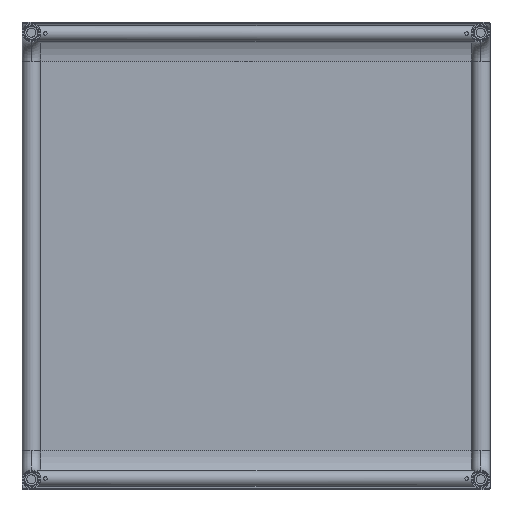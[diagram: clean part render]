
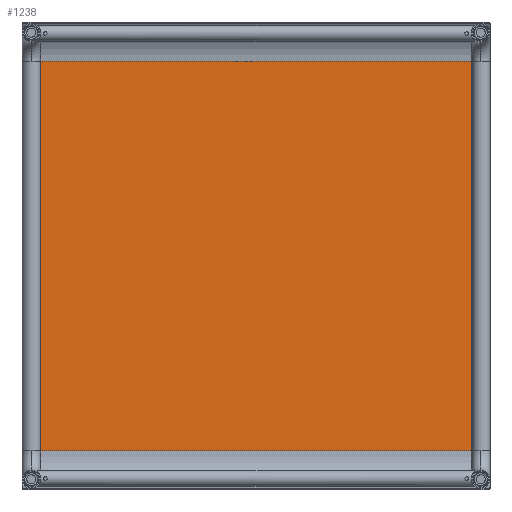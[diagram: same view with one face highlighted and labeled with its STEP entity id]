
A CAD part, front view. The second image highlights one B-rep face of the part: STEP entity #1238.
In plain terms, the highlighted planar face has unit normal (0, -1, 0).
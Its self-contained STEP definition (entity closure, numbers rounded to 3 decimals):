
#354 = VERTEX_POINT ( 'NONE', #2723 ) ;
#679 = EDGE_LOOP ( 'NONE', ( #4935, #4127, #1832, #2756 ) ) ;
#818 = DIRECTION ( 'NONE',  ( 0., 0., 1. ) ) ;
#900 = CARTESIAN_POINT ( 'NONE',  ( 400., -2.5, -332.5 ) ) ;
#939 = VERTEX_POINT ( 'NONE', #3155 ) ;
#1238 = ADVANCED_FACE ( 'NONE', ( #1807 ), #3176, .T. ) ;
#1807 = FACE_OUTER_BOUND ( 'NONE', #679, .T. ) ;
#1832 = ORIENTED_EDGE ( 'NONE', *, *, #4005, .F. ) ;
#1859 = EDGE_CURVE ( 'NONE', #939, #2720, #3558, .T. ) ;
#1962 = DIRECTION ( 'NONE',  ( 1., 0., 0. ) ) ;
#1963 = AXIS2_PLACEMENT_3D ( 'NONE', #7320, #7297, #4336 ) ;
#2016 = CARTESIAN_POINT ( 'NONE',  ( 400., -2.5, 400. ) ) ;
#2569 = CARTESIAN_POINT ( 'NONE',  ( -400., -2.5, 400. ) ) ;
#2720 = VERTEX_POINT ( 'NONE', #900 ) ;
#2723 = CARTESIAN_POINT ( 'NONE',  ( -400., -2.5, 332.5 ) ) ;
#2756 = ORIENTED_EDGE ( 'NONE', *, *, #3781, .F. ) ;
#3148 = DIRECTION ( 'NONE',  ( -1., 0., 0. ) ) ;
#3149 = DIRECTION ( 'NONE',  ( 0., 0., -1. ) ) ;
#3155 = CARTESIAN_POINT ( 'NONE',  ( 400., -2.5, 332.5 ) ) ;
#3176 = PLANE ( 'NONE',  #1963 ) ;
#3344 = CARTESIAN_POINT ( 'NONE',  ( -400., -2.5, -332.5 ) ) ;
#3558 = LINE ( 'NONE', #2016, #6636 ) ;
#3781 = EDGE_CURVE ( 'NONE', #4886, #354, #6440, .T. ) ;
#4005 = EDGE_CURVE ( 'NONE', #354, #939, #7203, .T. ) ;
#4057 = EDGE_CURVE ( 'NONE', #2720, #4886, #6645, .T. ) ;
#4127 = ORIENTED_EDGE ( 'NONE', *, *, #1859, .F. ) ;
#4202 = VECTOR ( 'NONE', #818, 1000. ) ;
#4275 = CARTESIAN_POINT ( 'NONE',  ( -400., -2.5, 332.5 ) ) ;
#4336 = DIRECTION ( 'NONE',  ( 0., 0., -1. ) ) ;
#4886 = VERTEX_POINT ( 'NONE', #3344 ) ;
#4935 = ORIENTED_EDGE ( 'NONE', *, *, #4057, .F. ) ;
#5540 = VECTOR ( 'NONE', #3148, 1000. ) ;
#6440 = LINE ( 'NONE', #2569, #4202 ) ;
#6466 = VECTOR ( 'NONE', #1962, 1000. ) ;
#6636 = VECTOR ( 'NONE', #3149, 1000. ) ;
#6645 = LINE ( 'NONE', #6712, #5540 ) ;
#6712 = CARTESIAN_POINT ( 'NONE',  ( 400., -2.5, -332.5 ) ) ;
#7203 = LINE ( 'NONE', #4275, #6466 ) ;
#7297 = DIRECTION ( 'NONE',  ( 0., -1., 0. ) ) ;
#7320 = CARTESIAN_POINT ( 'NONE',  ( 0., -2.5, 0. ) ) ;
